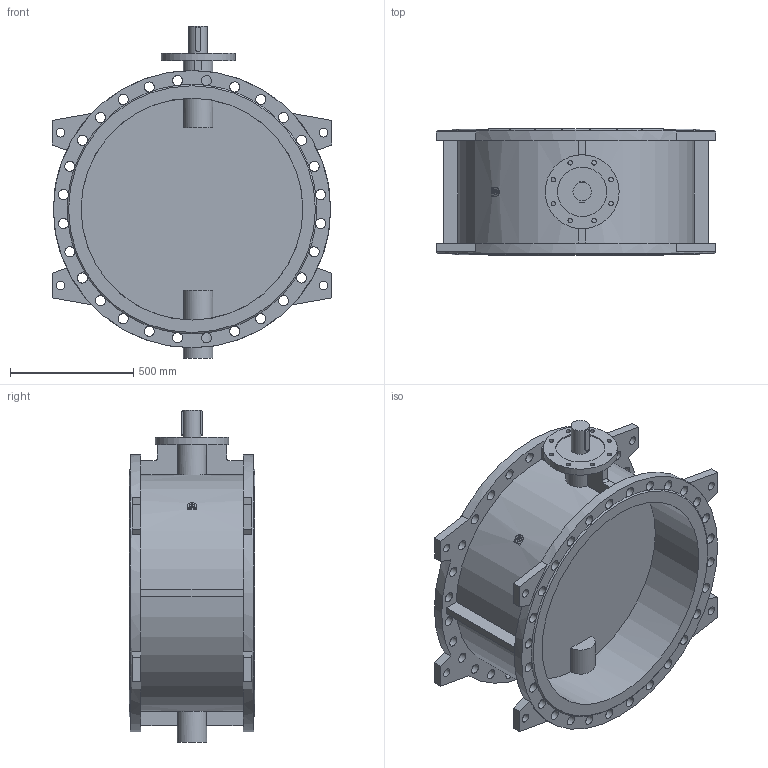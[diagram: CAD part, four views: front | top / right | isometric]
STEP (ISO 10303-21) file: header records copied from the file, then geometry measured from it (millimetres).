
FILE_DESCRIPTION(('STEP AP203'), '1');
FILE_NAME('Çàòâîð 023F.Z DN900 PN16_èñï', '', ('UNSPECIFIED'), ('UNSPECIFIED'), 'ASCON STEP Converter 1.6', 'ASCON Math Kernel', '');
FILE_SCHEMA(('CONFIG_CONTROL_DESIGN'));
Length unit declared in the file: millimetre
Bounding box: 1136 x 510 x 1347 mm (x, y, z)
Volume: 118851346 mm3; surface area: 6220896.9 mm2
Topology: 1 solids, 1 shells, 190 faces, 697 edges, 462 vertices
Faces by surface type: cylinder 99, plane 89, cone 2
Full cylindrical faces by diameter (mm): 18 x8, 35 x8, 41 x56, 75 x1, 120 x1, 200 x1, 300 x1, 900 x2, 1125 x2
Entity records: 12926 total; most frequent: CARTESIAN_POINT 5342, DIRECTION 1254, ORIENTED_EDGE 1228, EDGE_CURVE 614, AXIS2_PLACEMENT_3D 524, VERTEX_POINT 462, EDGE_LOOP 370, CIRCLE 333
